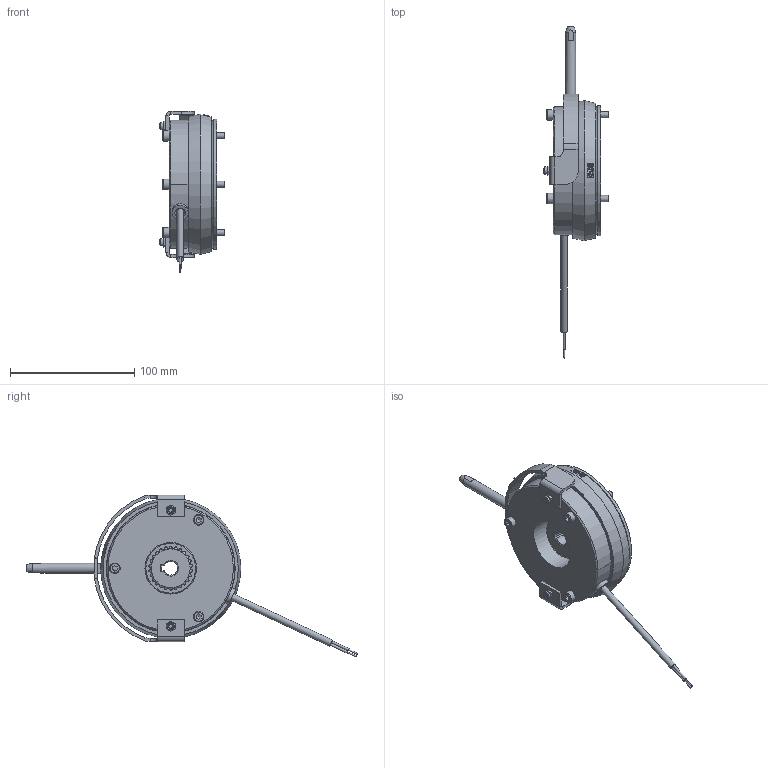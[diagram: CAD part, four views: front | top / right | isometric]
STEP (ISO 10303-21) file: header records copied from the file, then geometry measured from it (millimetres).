
FILE_DESCRIPTION(/* description */ (''),/* implementation_level */ '2;1');
FILE_NAME(/* name */ 'C:\SapWorkDir\Inventor\IP1\ConvertTempPath\5029482_IPT_000.ipt.stp',/* time_stamp */ '2021-04-21T07:29:25+02:00',/* author */ ('WOELK'),/* organization */ (''),/* preprocessor_version */ 'ST-DEVELOPER v17',/* originating_system */ 'Autodesk Inventor 2018',/* authorisation */ '');
FILE_SCHEMA (('AUTOMOTIVE_DESIGN { 1 0 10303 214 3 1 1 }'));
Length unit declared in the file: millimetre
Products named in the file (1): 5029482
Bounding box: 53 x 267.26 x 130.43 mm (x, y, z)
Volume: 283966 mm3; surface area: 98236.2 mm2
Topology: 1 solids, 1 shells, 761 faces, 2357 edges, 1561 vertices
Faces by surface type: cylinder 289, plane 269, bspline 102, cone 65, torus 36
Full cylindrical faces by diameter (mm): 1 x2, 1.85 x2, 3.621 x2, 4 x4, 4.134 x4, 5 x5, 5.15 x3, 5.3 x6, 5.5 x4, 5.9 x4, 6.6 x1, 6.7 x1, 7.188 x3, 8 x4, 8.4 x3, 8.5 x3, 10 x3, 13.2 x1, 40 x1, 41 x1, 41.5 x2, 76.5 x1, 103 x1, 105 x2
Entity records: 33266 total; most frequent: CARTESIAN_POINT 11881, ORIENTED_EDGE 4706, DIRECTION 3965, EDGE_CURVE 2353, VERTEX_POINT 1561, AXIS2_PLACEMENT_3D 1538, LINE 889, VECTOR 889
